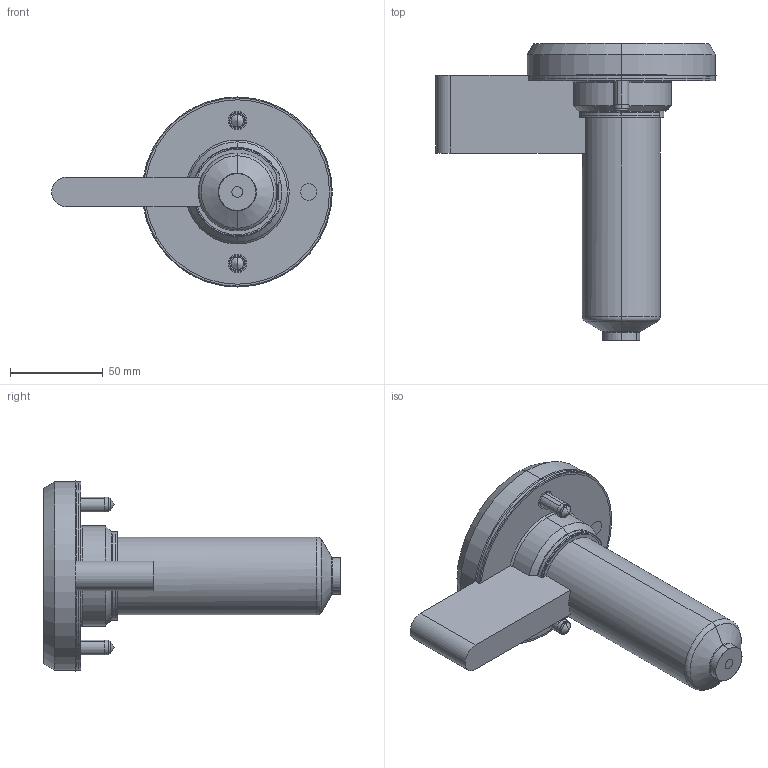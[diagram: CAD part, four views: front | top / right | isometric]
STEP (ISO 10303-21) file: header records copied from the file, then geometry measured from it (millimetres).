
FILE_DESCRIPTION (( 'STEP AP214' ), '1' );
FILE_NAME ('SOHSB16120-SOSRT1601.STEP', '2024-11-28T08:56:42', ( '' ), ( '' ), 'SwSTEP 2.0', 'SolidWorks 2022', '' );
FILE_SCHEMA (( 'AUTOMOTIVE_DESIGN' ));
Length unit declared in the file: millimetre
Products named in the file (9): EcoONE-HSB16-16004_SONH28112; SOHSB16120-SOSRT1601; EcoONE-HSB16-Open Gate Sprue Tip_SOSRT1601; EcoONE-HSB16-Open Gate Cut-out Details_Sprue Gate or Full Body Gate; EcoONE-HSB16-16003(A)_SOHSBNB16120; EcoONE-HSB16-00002(A)_SOHSBLR16; socket head cap screw_iso_ISO 4762 M8 x 25 - 25N; EcoONE-HSB16-16005_SOTC10350-J; EcoONE-HSB16-16006_SONHC16
Assembly tree (10 placements, depth 2):
  SOHSB16120-SOSRT1601
    EcoONE-HSB16-16003(A)_SOHSBNB16120
    EcoONE-HSB16-16004_SONH28112
    EcoONE-HSB16-16005_SOTC10350-J
    EcoONE-HSB16-16006_SONHC16  x2
    EcoONE-HSB16-00002(A)_SOHSBLR16
    socket head cap screw_iso_ISO 4762 M8 x 25 - 25N  x2
    EcoONE-HSB16-Open Gate Sprue Tip_SOSRT1601
    EcoONE-HSB16-Open Gate Cut-out Details_Sprue Gate or Full Body Gate
Bounding box: 151.2 x 160 x 102.4 mm (x, y, z)
Volume: 506629.4 mm3; surface area: 124981.3 mm2
Topology: 10 solids, 10 shells, 505 faces, 1270 edges, 797 vertices
Faces by surface type: cylinder 155, plane 137, bspline 98, cone 81, torus 26, sphere 8
Entity records: 28360 total; most frequent: CARTESIAN_POINT 17111, ORIENTED_EDGE 2320, DIRECTION 1963, EDGE_CURVE 1160, AXIS2_PLACEMENT_3D 791, VERTEX_POINT 736, EDGE_LOOP 500, ADVANCED_FACE 462
